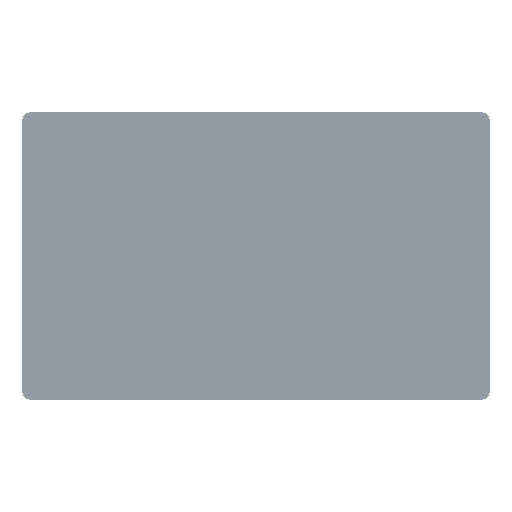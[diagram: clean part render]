
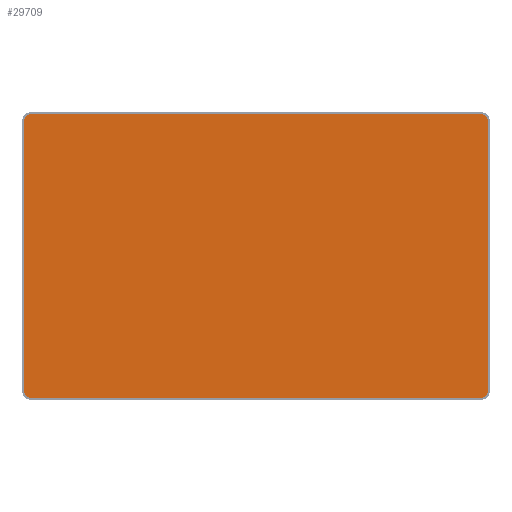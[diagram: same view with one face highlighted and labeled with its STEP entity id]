
A CAD part, front view. The second image highlights one B-rep face of the part: STEP entity #29709.
In plain terms, the highlighted planar face has unit normal (0, -1, 0).
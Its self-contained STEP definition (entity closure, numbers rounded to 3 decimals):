
#29478=DIRECTION('',(-1.,0.,0.));
#29479=VECTOR('',#29478,374.);
#29480=CARTESIAN_POINT('',(185.858,-30.08,238.738));
#29481=LINE('',#29480,#29479);
#29485=CARTESIAN_POINT('',(185.858,-30.08,232.438));
#29486=DIRECTION('',(0.,-1.,0.));
#29487=DIRECTION('',(1.,0.,0.));
#29488=AXIS2_PLACEMENT_3D('',#29485,#29486,#29487);
#29493=DIRECTION('',(0.,0.,1.));
#29494=VECTOR('',#29493,224.);
#29495=CARTESIAN_POINT('',(192.158,-30.08,8.438));
#29496=LINE('',#29495,#29494);
#29500=CARTESIAN_POINT('',(185.858,-30.08,8.438));
#29501=DIRECTION('',(0.,-1.,0.));
#29502=DIRECTION('',(0.,0.,-1.));
#29503=AXIS2_PLACEMENT_3D('',#29500,#29501,#29502);
#29508=DIRECTION('',(1.,0.,0.));
#29509=VECTOR('',#29508,374.);
#29510=CARTESIAN_POINT('',(-188.142,-30.08,2.138));
#29511=LINE('',#29510,#29509);
#29515=CARTESIAN_POINT('',(-188.142,-30.08,8.438));
#29516=DIRECTION('',(0.,-1.,0.));
#29517=DIRECTION('',(-1.,0.,0.));
#29518=AXIS2_PLACEMENT_3D('',#29515,#29516,#29517);
#29523=DIRECTION('',(0.,0.,-1.));
#29524=VECTOR('',#29523,224.);
#29525=CARTESIAN_POINT('',(-194.442,-30.08,232.438));
#29526=LINE('',#29525,#29524);
#29530=CARTESIAN_POINT('',(-188.142,-30.08,232.438));
#29531=DIRECTION('',(0.,-1.,0.));
#29532=DIRECTION('',(0.,0.,1.));
#29533=AXIS2_PLACEMENT_3D('',#29530,#29531,#29532);
#29670=CARTESIAN_POINT('',(-188.142,-30.08,238.738));
#29671=CARTESIAN_POINT('',(-194.442,-30.08,232.438));
#29672=VERTEX_POINT('',#29670);
#29673=VERTEX_POINT('',#29671);
#29674=CARTESIAN_POINT('',(-194.442,-30.08,8.438));
#29675=VERTEX_POINT('',#29674);
#29676=CARTESIAN_POINT('',(-188.142,-30.08,2.138));
#29677=VERTEX_POINT('',#29676);
#29678=CARTESIAN_POINT('',(185.858,-30.08,2.138));
#29679=VERTEX_POINT('',#29678);
#29680=CARTESIAN_POINT('',(192.158,-30.08,8.438));
#29681=VERTEX_POINT('',#29680);
#29682=CARTESIAN_POINT('',(192.158,-30.08,232.438));
#29683=VERTEX_POINT('',#29682);
#29684=CARTESIAN_POINT('',(185.858,-30.08,238.738));
#29685=VERTEX_POINT('',#29684);
#29686=CARTESIAN_POINT('',(188.658,-30.08,5.638));
#29687=DIRECTION('',(0.,-1.,0.));
#29688=DIRECTION('',(1.,0.,0.));
#29689=AXIS2_PLACEMENT_3D('',#29686,#29687,#29688);
#29690=PLANE('',#29689);
#29692=ORIENTED_EDGE('',*,*,#29691,.F.);
#29694=ORIENTED_EDGE('',*,*,#29693,.F.);
#29696=ORIENTED_EDGE('',*,*,#29695,.F.);
#29698=ORIENTED_EDGE('',*,*,#29697,.F.);
#29700=ORIENTED_EDGE('',*,*,#29699,.F.);
#29702=ORIENTED_EDGE('',*,*,#29701,.F.);
#29704=ORIENTED_EDGE('',*,*,#29703,.F.);
#29706=ORIENTED_EDGE('',*,*,#29705,.F.);
#29707=EDGE_LOOP('',(#29692,#29694,#29696,#29698,#29700,#29702,#29704,#29706));
#29708=FACE_OUTER_BOUND('',#29707,.F.);
#29709=ADVANCED_FACE('',(#29708),#29690,.T.);
#29489=CIRCLE('',#29488,6.3);
#29504=CIRCLE('',#29503,6.3);
#29519=CIRCLE('',#29518,6.3);
#29534=CIRCLE('',#29533,6.3);
#29691=EDGE_CURVE('',#29685,#29672,#29481,.T.);
#29693=EDGE_CURVE('',#29683,#29685,#29489,.T.);
#29695=EDGE_CURVE('',#29681,#29683,#29496,.T.);
#29697=EDGE_CURVE('',#29679,#29681,#29504,.T.);
#29699=EDGE_CURVE('',#29677,#29679,#29511,.T.);
#29701=EDGE_CURVE('',#29675,#29677,#29519,.T.);
#29703=EDGE_CURVE('',#29673,#29675,#29526,.T.);
#29705=EDGE_CURVE('',#29672,#29673,#29534,.T.);
